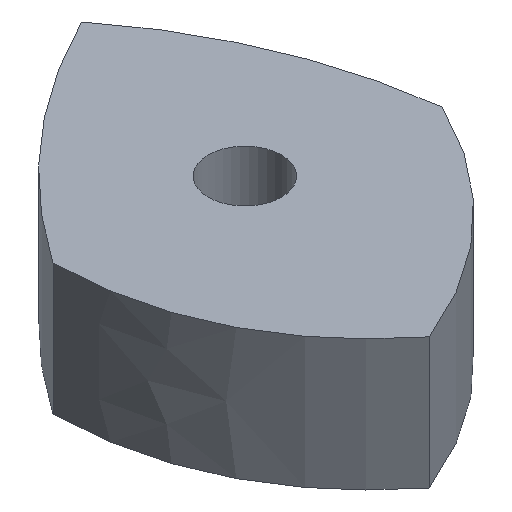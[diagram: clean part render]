
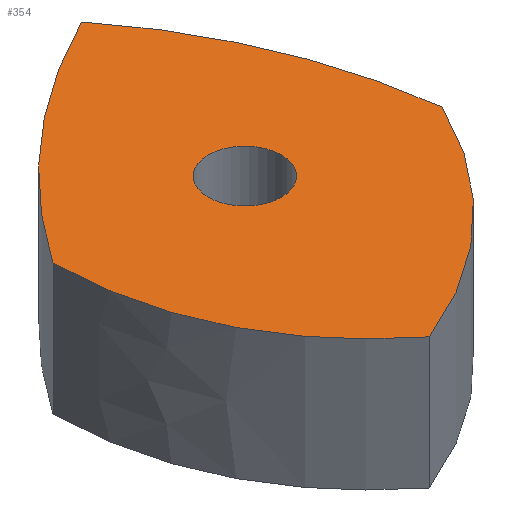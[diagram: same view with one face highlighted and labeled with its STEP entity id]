
A CAD part, isometric view. The second image highlights one B-rep face of the part: STEP entity #354.
In plain terms, the highlighted planar face has unit normal (0, 0, 1).
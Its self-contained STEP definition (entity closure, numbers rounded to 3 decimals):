
#24 = VERTEX_POINT('',#25);
#25 = CARTESIAN_POINT('',(18.151,-4.477,15.));
#32 = CYLINDRICAL_SURFACE('',#33,58.382);
#33 = AXIS2_PLACEMENT_3D('',#34,#35,#36);
#34 = CARTESIAN_POINT('',(-39.788,-11.655,0.));
#35 = DIRECTION('',(-0.,-0.,-1.));
#36 = DIRECTION('',(0.992,0.123,-0.));
#44 = CYLINDRICAL_SURFACE('',#45,44.073);
#45 = AXIS2_PLACEMENT_3D('',#46,#47,#48);
#46 = CARTESIAN_POINT('',(-21.67,14.409,0.));
#47 = DIRECTION('',(-0.,-0.,-1.));
#48 = DIRECTION('',(0.37,-0.929,0.));
#56 = EDGE_CURVE('',#24,#57,#59,.T.);
#57 = VERTEX_POINT('',#58);
#58 = CARTESIAN_POINT('',(5.924,24.662,15.));
#59 = SURFACE_CURVE('',#60,(#65,#72),.PCURVE_S1.);
#60 = CIRCLE('',#61,58.382);
#61 = AXIS2_PLACEMENT_3D('',#62,#63,#64);
#62 = CARTESIAN_POINT('',(-39.788,-11.655,15.));
#63 = DIRECTION('',(0.,0.,1.));
#64 = DIRECTION('',(0.992,0.123,-0.));
#65 = PCURVE('',#32,#66);
#66 = DEFINITIONAL_REPRESENTATION('',(#67),#71);
#67 = LINE('',#68,#69);
#68 = CARTESIAN_POINT('',(-0.,-15.));
#69 = VECTOR('',#70,1.);
#70 = DIRECTION('',(-1.,0.));
#71 = ( GEOMETRIC_REPRESENTATION_CONTEXT(2) 
PARAMETRIC_REPRESENTATION_CONTEXT() REPRESENTATION_CONTEXT('2D SPACE',''
  ) );
#72 = PCURVE('',#73,#78);
#73 = PLANE('',#74);
#74 = AXIS2_PLACEMENT_3D('',#75,#76,#77);
#75 = CARTESIAN_POINT('',(-0.461,-1.121,15.));
#76 = DIRECTION('',(0.,0.,1.));
#77 = DIRECTION('',(1.,0.,-0.));
#78 = DEFINITIONAL_REPRESENTATION('',(#79),#83);
#79 = CIRCLE('',#80,58.382);
#80 = AXIS2_PLACEMENT_2D('',#81,#82);
#81 = CARTESIAN_POINT('',(-39.328,-10.534));
#82 = DIRECTION('',(0.992,0.123));
#83 = ( GEOMETRIC_REPRESENTATION_CONTEXT(2) 
PARAMETRIC_REPRESENTATION_CONTEXT() REPRESENTATION_CONTEXT('2D SPACE',''
  ) );
#101 = CYLINDRICAL_SURFACE('',#102,67.177);
#102 = AXIS2_PLACEMENT_3D('',#103,#104,#105);
#103 = CARTESIAN_POINT('',(35.886,-35.463,0.));
#104 = DIRECTION('',(-0.,-0.,-1.));
#105 = DIRECTION('',(-0.446,0.895,0.));
#146 = VERTEX_POINT('',#147);
#147 = CARTESIAN_POINT('',(-5.38,-26.543,15.));
#161 = SURFACE_OF_LINEAR_EXTRUSION('',#162,#166);
#162 = B_SPLINE_CURVE_WITH_KNOTS('',2,(#163,#164,#165),.UNSPECIFIED.,.F.
  ,.F.,(3,3),(0.,33.094),.PIECEWISE_BEZIER_KNOTS.);
#163 = CARTESIAN_POINT('',(-19.647,2.338,0.));
#164 = CARTESIAN_POINT('',(-19.328,-15.448,0.));
#165 = CARTESIAN_POINT('',(-5.38,-26.543,0.));
#166 = VECTOR('',#167,1.);
#167 = DIRECTION('',(-0.,-0.,-1.));
#175 = EDGE_CURVE('',#146,#24,#176,.T.);
#176 = SURFACE_CURVE('',#177,(#182,#189),.PCURVE_S1.);
#177 = CIRCLE('',#178,44.073);
#178 = AXIS2_PLACEMENT_3D('',#179,#180,#181);
#179 = CARTESIAN_POINT('',(-21.67,14.409,15.));
#180 = DIRECTION('',(0.,0.,1.));
#181 = DIRECTION('',(0.37,-0.929,0.));
#182 = PCURVE('',#44,#183);
#183 = DEFINITIONAL_REPRESENTATION('',(#184),#188);
#184 = LINE('',#185,#186);
#185 = CARTESIAN_POINT('',(-0.,-15.));
#186 = VECTOR('',#187,1.);
#187 = DIRECTION('',(-1.,0.));
#188 = ( GEOMETRIC_REPRESENTATION_CONTEXT(2) 
PARAMETRIC_REPRESENTATION_CONTEXT() REPRESENTATION_CONTEXT('2D SPACE',''
  ) );
#189 = PCURVE('',#73,#190);
#190 = DEFINITIONAL_REPRESENTATION('',(#191),#195);
#191 = CIRCLE('',#192,44.073);
#192 = AXIS2_PLACEMENT_2D('',#193,#194);
#193 = CARTESIAN_POINT('',(-21.21,15.53));
#194 = DIRECTION('',(0.37,-0.929));
#195 = ( GEOMETRIC_REPRESENTATION_CONTEXT(2) 
PARAMETRIC_REPRESENTATION_CONTEXT() REPRESENTATION_CONTEXT('2D SPACE',''
  ) );
#224 = EDGE_CURVE('',#57,#225,#227,.T.);
#225 = VERTEX_POINT('',#226);
#226 = CARTESIAN_POINT('',(-19.647,2.338,15.));
#227 = SURFACE_CURVE('',#228,(#233,#240),.PCURVE_S1.);
#228 = CIRCLE('',#229,67.177);
#229 = AXIS2_PLACEMENT_3D('',#230,#231,#232);
#230 = CARTESIAN_POINT('',(35.886,-35.463,15.));
#231 = DIRECTION('',(0.,0.,1.));
#232 = DIRECTION('',(-0.446,0.895,0.));
#233 = PCURVE('',#101,#234);
#234 = DEFINITIONAL_REPRESENTATION('',(#235),#239);
#235 = LINE('',#236,#237);
#236 = CARTESIAN_POINT('',(-0.,-15.));
#237 = VECTOR('',#238,1.);
#238 = DIRECTION('',(-1.,0.));
#239 = ( GEOMETRIC_REPRESENTATION_CONTEXT(2) 
PARAMETRIC_REPRESENTATION_CONTEXT() REPRESENTATION_CONTEXT('2D SPACE',''
  ) );
#240 = PCURVE('',#73,#241);
#241 = DEFINITIONAL_REPRESENTATION('',(#242),#246);
#242 = CIRCLE('',#243,67.177);
#243 = AXIS2_PLACEMENT_2D('',#244,#245);
#244 = CARTESIAN_POINT('',(36.346,-34.342));
#245 = DIRECTION('',(-0.446,0.895));
#246 = ( GEOMETRIC_REPRESENTATION_CONTEXT(2) 
PARAMETRIC_REPRESENTATION_CONTEXT() REPRESENTATION_CONTEXT('2D SPACE',''
  ) );
#343 = CYLINDRICAL_SURFACE('',#344,4.2);
#344 = AXIS2_PLACEMENT_3D('',#345,#346,#347);
#345 = CARTESIAN_POINT('',(0.,0.,15.));
#346 = DIRECTION('',(0.,0.,-1.));
#347 = DIRECTION('',(-1.,0.,0.));
#354 = ADVANCED_FACE('',(#355,#381),#73,.T.);
#355 = FACE_BOUND('',#356,.T.);
#356 = EDGE_LOOP('',(#357,#358,#359,#380));
#357 = ORIENTED_EDGE('',*,*,#56,.T.);
#358 = ORIENTED_EDGE('',*,*,#224,.T.);
#359 = ORIENTED_EDGE('',*,*,#360,.T.);
#360 = EDGE_CURVE('',#225,#146,#361,.T.);
#361 = SURFACE_CURVE('',#362,(#366,#373),.PCURVE_S1.);
#362 = B_SPLINE_CURVE_WITH_KNOTS('',2,(#363,#364,#365),.UNSPECIFIED.,.F.
  ,.F.,(3,3),(0.,33.094),.PIECEWISE_BEZIER_KNOTS.);
#363 = CARTESIAN_POINT('',(-19.647,2.338,15.));
#364 = CARTESIAN_POINT('',(-19.328,-15.448,15.));
#365 = CARTESIAN_POINT('',(-5.38,-26.543,15.));
#366 = PCURVE('',#73,#367);
#367 = DEFINITIONAL_REPRESENTATION('',(#368),#372);
#368 = B_SPLINE_CURVE_WITH_KNOTS('',2,(#369,#370,#371),.UNSPECIFIED.,.F.
  ,.F.,(3,3),(0.,33.094),.PIECEWISE_BEZIER_KNOTS.);
#369 = CARTESIAN_POINT('',(-19.186,3.458));
#370 = CARTESIAN_POINT('',(-18.867,-14.327));
#371 = CARTESIAN_POINT('',(-4.92,-25.422));
#372 = ( GEOMETRIC_REPRESENTATION_CONTEXT(2) 
PARAMETRIC_REPRESENTATION_CONTEXT() REPRESENTATION_CONTEXT('2D SPACE',''
  ) );
#373 = PCURVE('',#161,#374);
#374 = DEFINITIONAL_REPRESENTATION('',(#375),#379);
#375 = LINE('',#376,#377);
#376 = CARTESIAN_POINT('',(0.,-15.));
#377 = VECTOR('',#378,1.);
#378 = DIRECTION('',(1.,0.));
#379 = ( GEOMETRIC_REPRESENTATION_CONTEXT(2) 
PARAMETRIC_REPRESENTATION_CONTEXT() REPRESENTATION_CONTEXT('2D SPACE',''
  ) );
#380 = ORIENTED_EDGE('',*,*,#175,.T.);
#381 = FACE_BOUND('',#382,.T.);
#382 = EDGE_LOOP('',(#383));
#383 = ORIENTED_EDGE('',*,*,#384,.T.);
#384 = EDGE_CURVE('',#385,#385,#387,.T.);
#385 = VERTEX_POINT('',#386);
#386 = CARTESIAN_POINT('',(-4.2,0.,15.));
#387 = SURFACE_CURVE('',#388,(#393,#404),.PCURVE_S1.);
#388 = CIRCLE('',#389,4.2);
#389 = AXIS2_PLACEMENT_3D('',#390,#391,#392);
#390 = CARTESIAN_POINT('',(0.,0.,15.));
#391 = DIRECTION('',(0.,0.,-1.));
#392 = DIRECTION('',(-1.,0.,0.));
#393 = PCURVE('',#73,#394);
#394 = DEFINITIONAL_REPRESENTATION('',(#395),#403);
#395 = ( BOUNDED_CURVE() B_SPLINE_CURVE(2,(#396,#397,#398,#399,#400,#401
,#402),.UNSPECIFIED.,.T.,.F.) B_SPLINE_CURVE_WITH_KNOTS((1,2,2,2,2,1),(
    -2.094,0.,2.094,4.189,6.283,
8.378),.UNSPECIFIED.) CURVE() GEOMETRIC_REPRESENTATION_ITEM() 
RATIONAL_B_SPLINE_CURVE((1.,0.5,1.,0.5,1.,0.5,1.)) REPRESENTATION_ITEM(
  '') );
#396 = CARTESIAN_POINT('',(-3.739,1.121));
#397 = CARTESIAN_POINT('',(-3.739,8.395));
#398 = CARTESIAN_POINT('',(2.561,4.758));
#399 = CARTESIAN_POINT('',(8.861,1.121));
#400 = CARTESIAN_POINT('',(2.561,-2.517));
#401 = CARTESIAN_POINT('',(-3.739,-6.154));
#402 = CARTESIAN_POINT('',(-3.739,1.121));
#403 = ( GEOMETRIC_REPRESENTATION_CONTEXT(2) 
PARAMETRIC_REPRESENTATION_CONTEXT() REPRESENTATION_CONTEXT('2D SPACE',''
  ) );
#404 = PCURVE('',#343,#405);
#405 = DEFINITIONAL_REPRESENTATION('',(#406),#410);
#406 = LINE('',#407,#408);
#407 = CARTESIAN_POINT('',(0.,0.));
#408 = VECTOR('',#409,1.);
#409 = DIRECTION('',(1.,0.));
#410 = ( GEOMETRIC_REPRESENTATION_CONTEXT(2) 
PARAMETRIC_REPRESENTATION_CONTEXT() REPRESENTATION_CONTEXT('2D SPACE',''
  ) );
